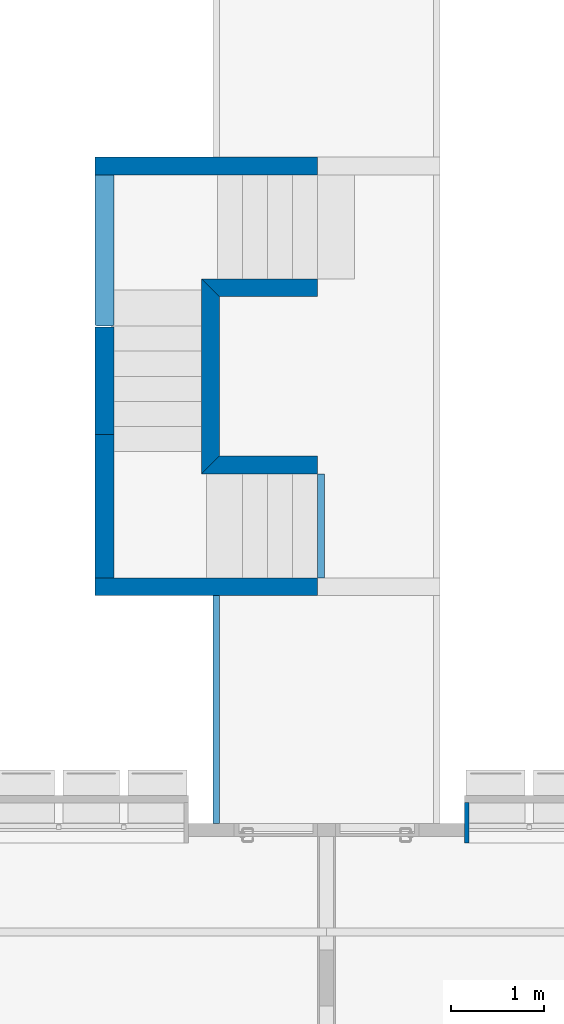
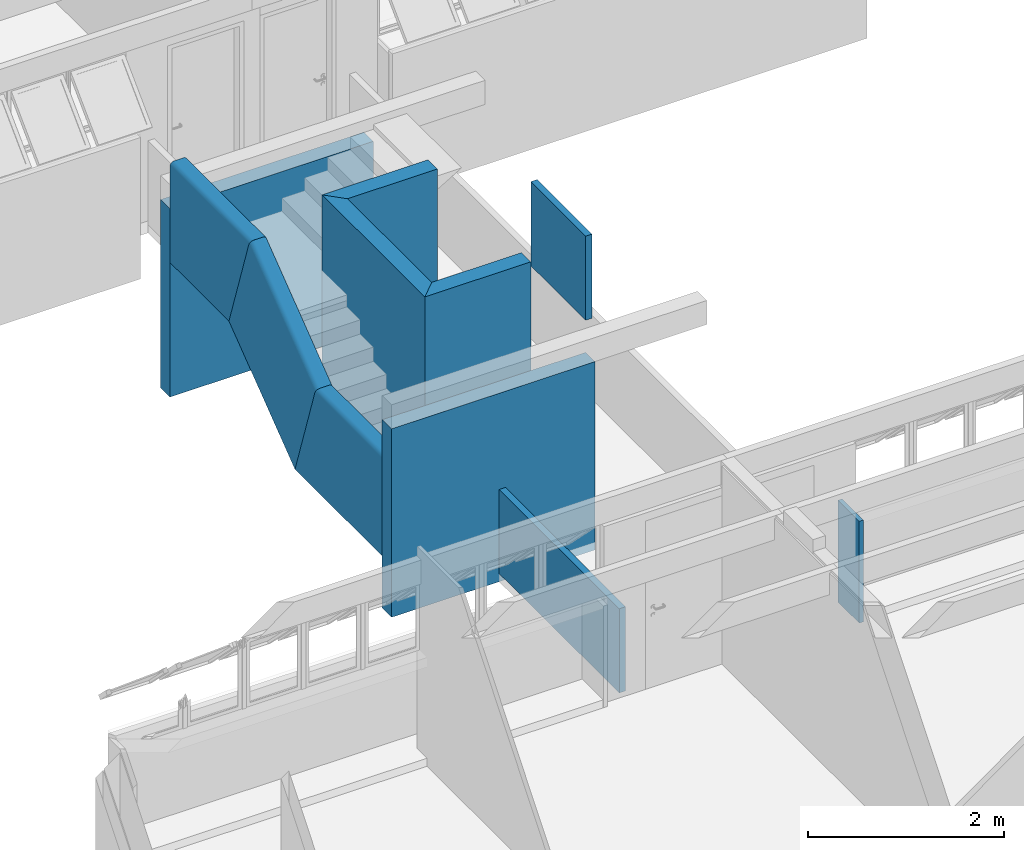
# One storey, part 28 of 41: 11 walls, 1 element without a shape of its own.
"""IFC4 building model written with IfcOpenShell, lengths in millimetres."""

from ifc_helpers import new_model, entity, si_unit, converted_unit, derived_unit, direction, frame, origin_with_axes, place, context, subcontext, project, spatial, line, indexed_curve, outline, extrude, polygons, source, transform, mapped, material, layer, layer_set, layer_usage, type_object, element, aggregate, save


model = new_model("IFC4")

# Units and contexts
model_context = context("Model", 3, precision=0.01, world=origin_with_axes(), true_north=direction((0.0, 1.0)))
body_context = subcontext(model_context, "Body", "Model", "MODEL_VIEW")
ifc_project = project(units=[si_unit("LENGTHUNIT", "METRE", prefix="MILLI"), si_unit("AREAUNIT", "SQUARE_METRE"), si_unit("VOLUMEUNIT", "CUBIC_METRE"), converted_unit("PLANEANGLEUNIT", "DEGREE", entity("IfcPlaneAngleMeasure", 0.0174532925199), si_unit("PLANEANGLEUNIT", "RADIAN"), dimensions=[0, 0, 0, 0, 0, 0, 0]), converted_unit("TIMEUNIT", "Year", entity("IfcTimeMeasure", 31556926.0), si_unit("TIMEUNIT", "SECOND"), dimensions=[0, 0, 1, 0, 0, 0, 0]), si_unit("MASSUNIT", "GRAM", prefix="KILO"), si_unit("THERMODYNAMICTEMPERATUREUNIT", "DEGREE_CELSIUS"), si_unit("LUMINOUSINTENSITYUNIT", "LUMEN"), si_unit("ENERGYUNIT", "JOULE", prefix="MEGA"), derived_unit("THERMALCONDUCTANCEUNIT", [(si_unit("POWERUNIT", "WATT"), 1), (si_unit("LENGTHUNIT", "METRE"), -1), (si_unit("THERMODYNAMICTEMPERATUREUNIT", "KELVIN"), -1)]), derived_unit("SPECIFICHEATCAPACITYUNIT", [(si_unit("ENERGYUNIT", "JOULE"), 1), (si_unit("MASSUNIT", "GRAM", prefix="KILO"), -1), (si_unit("THERMODYNAMICTEMPERATUREUNIT", "KELVIN"), -1)]), derived_unit("MASSDENSITYUNIT", [(si_unit("MASSUNIT", "GRAM", prefix="KILO"), 1), (si_unit("VOLUMEUNIT", "CUBIC_METRE"), -1)])], contexts=[model_context])

# Site, building, storey
site_placement = place(None, origin_with_axes())
site = spatial("IfcSite", under=ifc_project, at=site_placement, Name="Local", CompositionType="ELEMENT")
building_placement = place(site_placement, origin_with_axes())
building = spatial("IfcBuilding", under=site, at=building_placement, Name="Construção", CompositionType="ELEMENT")
storey_placement = place(building_placement, frame((0.0, 0.0, 2650.0), z_axis=(0.0, 0.0, 1.0), x_axis=(1.0, 0.0, 0.0)))
storey = spatial("IfcBuildingStorey", under=building, at=storey_placement, Name="Segundo Pavimento", CompositionType="ELEMENT", Elevation=2650.0)

# Walls
ifc_material_1 = material(Name="GENÉRICO - VEDAÇÃO EXTERNA")
ifc_layer_1 = layer(ifc_material_1, 190.0, ventilated="UNKNOWN", Name="GENÉRICO - VEDAÇÃO EXTERNA")
ifc_layer_set_1 = layer_set([ifc_layer_1], Name="GENÉRICO - VEDAÇÃO EXTERNA 190")
ifc_layer_usage_1 = layer_usage(ifc_layer_set_1, "AXIS2", "NEGATIVE", 0.0)
wall_type_1 = type_object("IfcWallType", Name="GENÉRICO - VEDAÇÃO EXTERNA 190", PredefinedType="NOTDEFINED")
wall_1_placement = place(storey_placement, frame((4890.0, 15440.0, -150.0), z_axis=(0.0, 0.0, 1.0), x_axis=(1.0, 0.0, 0.0)))
element("IfcWall", 1, at=wall_1_placement, inside=storey, type_object=wall_type_1, material=ifc_layer_usage_1, Name="CIRC2-PAREDE-020", PredefinedType="NOTDEFINED", context=body_context, shape_type="SweptSolid", body=[
    extrude(outline(indexed_curve([(0.0, -190.0), (2400.0, -190.0), (2400.0, 0.0), (0.0, 0.0)], segments=[line(1, 2, 3, 4, 1)])), origin_with_axes(), (0.0, 0.0, 1.0), 2350.0),
])
ifc_layer_usage_2 = layer_usage(ifc_layer_set_1, "AXIS2", "NEGATIVE", 0.0)
wall_2_placement = place(storey_placement, frame((4890.0, 10910.0, -150.0), z_axis=(0.0, 0.0, 1.0), x_axis=(1.0, 0.0, 0.0)))
element("IfcWall", 2, at=wall_2_placement, inside=storey, type_object=wall_type_1, material=ifc_layer_usage_2, Name="CIRC2-PAREDE-021", PredefinedType="NOTDEFINED", context=body_context, shape_type="SweptSolid", body=[
    extrude(outline(indexed_curve([(0.0, -190.0), (2400.0, -190.0), (2400.0, 0.0), (0.0, 0.0)], segments=[line(1, 2, 3, 4, 1)])), origin_with_axes(), (0.0, 0.0, 1.0), 2350.0),
])
ifc_material_2 = material(Name="Concreto Armado Moldado in Loco - Estrutural")
ifc_layer_2 = layer(ifc_material_2, 190.0, ventilated="UNKNOWN", Name="Concreto Armado Moldado in Loco - Estrutural")
ifc_layer_set_2 = layer_set([ifc_layer_2], Name="Concreto Armado Moldado in Loco - Estrutural 190")
ifc_layer_usage_3 = layer_usage(ifc_layer_set_2, "AXIS2", "NEGATIVE", 0.0)
wall_type_2 = type_object("IfcWallType", Name="Concreto Armado Moldado in Loco - Estrutural 190", PredefinedType="NOTDEFINED")
wall_3_placement = place(storey_placement, frame((6230.0, 13940.0, -50.0), z_axis=(0.0, 0.0, 1.0), x_axis=(0.0, -1.0, 0.0)))
element("IfcWall", 3, at=wall_3_placement, inside=storey, type_object=wall_type_2, material=ifc_layer_usage_3, Name="CIRC2-PAREDE-022", PredefinedType="NOTDEFINED", context=body_context, shape_type="SweptSolid", body=[
    extrude(outline(indexed_curve([(-190.0, -190.0), (1910.0, -190.0), (1720.0, 0.0), (0.0, 0.0)], segments=[line(1, 2, 3, 4, 1)])), origin_with_axes(), (0.0, 0.0, 1.0), 2700.0),
])
ifc_layer_usage_4 = layer_usage(ifc_layer_set_2, "AXIS2", "NEGATIVE", 0.0)
wall_4_placement = place(storey_placement, frame((6230.0, 12220.0, -50.0), z_axis=(0.0, 0.0, 1.0), x_axis=(1.0, 0.0, 0.0)))
element("IfcWall", 4, at=wall_4_placement, inside=storey, type_object=wall_type_2, material=ifc_layer_usage_4, Name="CIRC2-PAREDE-023", PredefinedType="NOTDEFINED", context=body_context, shape_type="SweptSolid", body=[
    extrude(outline(indexed_curve([(-190.0, -190.0), (1060.0, -190.0), (1060.0, 0.0), (0.0, 0.0)], segments=[line(1, 2, 3, 4, 1)])), origin_with_axes(), (0.0, 0.0, 1.0), 2700.0),
])
ifc_layer_usage_5 = layer_usage(ifc_layer_set_2, "AXIS2", "NEGATIVE", 0.0)
wall_5_placement = place(storey_placement, frame((7290.0, 13940.0, -50.0), z_axis=(0.0, 0.0, 1.0), x_axis=(-1.0, 0.0, 0.0)))
element("IfcWall", 5, at=wall_5_placement, inside=storey, type_object=wall_type_2, material=ifc_layer_usage_5, Name="CIRC2-PAREDE-024", PredefinedType="NOTDEFINED", context=body_context, shape_type="SweptSolid", body=[
    extrude(outline(indexed_curve([(0.0, -190.0), (1250.0, -190.0), (1060.0, 0.0), (0.0, 0.0)], segments=[line(1, 2, 3, 4, 1)])), origin_with_axes(), (0.0, 0.0, 1.0), 2700.0),
])

# Railing, walls
railing_type = type_object("IfcRailingType", Name="Tipo de Guarda-Corpo", PredefinedType="NOTDEFINED")
railing_placement = place(storey_placement, frame((4890.0, 10910.0, 500.0), z_axis=(0.0, 0.0, 1.0), x_axis=(1.0, 0.0, 0.0)))
railing = element("IfcRailing", 6, at=railing_placement, inside=storey, type_object=railing_type, Name="CIRC2-GC-002", PredefinedType="NOTDEFINED")
ifc_material_3 = material(Name="Concreto")
wall_type_3 = type_object("IfcWallType", Name="IfcWall", PredefinedType="NOTDEFINED")
shared_shape_1 = source(origin_with_axes(), body_context, "Body", "Tessellation", [
    polygons([(102.555801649, 0.0, 1250.0), (155.222345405, 0.0, 1250.0), (155.222345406, 1360.0, 1250.0), (102.555801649, 1360.0, 1250.0), (102.555801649, 0.0, 0.0), (205.111603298, 0.0, 0.0), (205.111603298, 0.0, 1203.32595053), (203.863102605, 0.0, 1211.57915105), (201.259002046, 0.0, 1219.50964493), (197.371876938, 0.0, 1226.89641224), (192.310060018, 0.0, 1233.53358652), (186.214622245, 0.0, 1239.23619217), (179.255441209, 0.0, 1243.8452997), (171.626466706, 0.0, 1247.23245499), (163.540315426, 0.0, 1249.30325927), (163.540315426, 1360.23554641, 1249.30325927), (171.626466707, 1360.93562106, 1247.23245499), (179.25544121, 1362.08071312, 1243.8452997), (186.214622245, 1363.6389093, 1239.23619217), (192.310060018, 1365.56678325, 1233.53358652), (197.371876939, 1367.81060584, 1226.89641224), (201.259002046, 1370.30784257, 1219.50964493), (203.863102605, 1372.98889638, 1211.57915105), (205.111603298, 1375.77904728, 1203.32595053), (205.111603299, 1782.58619778, 0.0), (102.555801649, 1782.58619778, 0.0)], [[[1, 2, 3, 4]], [[1, 5, 6, 7, 8, 9, 10, 11, 12, 13, 14, 15, 2]], [[2, 15, 16, 3]], [[4, 3, 16, 17, 18, 19, 20, 21, 22, 23, 24, 25, 26]], [[5, 1, 4, 26]], [[6, 5, 26, 25]], [[7, 6, 25, 24]], [[8, 7, 24, 23]], [[9, 8, 23, 22]], [[10, 9, 22, 21]], [[11, 10, 21, 20]], [[12, 11, 20, 19]], [[13, 12, 19, 18]], [[14, 13, 18, 17]], [[15, 14, 17, 16]]], closed=True),
    polygons([(102.555801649, 0.0, 0.0), (0.0, 0.0, 0.0), (2.67611799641e-10, 1782.58619778, 0.0), (102.555801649, 1782.58619778, 0.0), (102.555801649, 0.0, 1250.0), (49.8892578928, 0.0, 1250.0), (41.5712878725, 0.0, 1249.30325927), (33.485136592, 0.0, 1247.23245499), (25.8561620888, 0.0, 1243.8452997), (18.8969810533, 0.0, 1239.23619217), (12.8015432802, 0.0, 1233.53358652), (7.73972635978, 0.0, 1226.89641224), (3.85260125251, 0.0, 1219.50964493), (1.24850069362, 0.0, 1211.57915105), (0.0, 0.0, 1203.32595053), (2.06578442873e-10, 1375.77904728, 1203.32595053), (1.24850069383, 1372.98889638, 1211.57915105), (3.85260125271, 1370.30784257, 1219.50964493), (7.73972635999, 1367.81060584, 1226.89641224), (12.8015432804, 1365.56678325, 1233.53358652), (18.8969810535, 1363.6389093, 1239.23619217), (25.856162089, 1362.08071312, 1243.8452997), (33.4851365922, 1360.93562106, 1247.23245499), (41.5712878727, 1360.23554641, 1249.30325927), (49.889257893, 1360.0, 1250.0), (102.555801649, 1360.0, 1250.0)], [[[1, 2, 3, 4]], [[1, 5, 6, 7, 8, 9, 10, 11, 12, 13, 14, 15, 2]], [[2, 15, 16, 3]], [[4, 3, 16, 17, 18, 19, 20, 21, 22, 23, 24, 25, 26]], [[5, 1, 4, 26]], [[6, 5, 26, 25]], [[7, 6, 25, 24]], [[8, 7, 24, 23]], [[9, 8, 23, 22]], [[10, 9, 22, 21]], [[11, 10, 21, 20]], [[12, 11, 20, 19]], [[13, 12, 19, 18]], [[14, 13, 18, 17]], [[15, 14, 17, 16]]], closed=True),
])
wall_6_placement = place(railing_placement, frame((1.02140518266e-10, 680.0, -16.7165309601), z_axis=(0.0, 0.0, 1.0), x_axis=(1.0, 0.0, 0.0)))
wall_6 = element("IfcWall", 7, at=wall_6_placement, type_object=wall_type_3, material=ifc_material_3, Name="CIRC2-GC - Barra Superior - 001", PredefinedType="NOTDEFINED", context=body_context, shape_type="MappedRepresentation", body=[
    mapped(shared_shape_1, transform((-1.02140518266e-10, -680.0, 16.7165309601))),
])
shared_shape_2 = source(origin_with_axes(), body_context, "Body", "Tessellation", [
    polygons([(102.555801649, 0.0, 1250.0), (155.222345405, 0.0, 1250.0), (155.222345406, 1350.0, 2280.57075871), (102.555801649, 1350.0, 2280.57075871), (102.555801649, 422.586197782, 0.0), (205.111603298, 422.586197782, 0.0), (205.111603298, 15.7790472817, 1203.32595053), (203.863102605, 12.9888963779, 1211.57915105), (201.259002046, 10.3078425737, 1219.50964493), (197.371876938, 7.81060584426, 1226.89641224), (192.310060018, 5.56678325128, 1233.53358652), (186.214622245, 3.6389092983, 1239.23619217), (179.255441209, 2.08071311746, 1243.8452997), (171.626466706, 0.935621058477, 1247.23245499), (163.540315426, 0.235546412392, 1249.30325927), (163.540315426, 1350.23554641, 2279.87401798), (171.626466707, 1350.93562106, 2277.8032137), (179.25544121, 1352.08071312, 2274.41605841), (186.214622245, 1353.6389093, 2269.80695088), (192.310060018, 1355.56678325, 2264.10434523), (197.371876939, 1357.81060584, 2257.46717095), (201.259002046, 1360.30784257, 2250.08040364), (203.863102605, 1362.98889638, 2242.14990976), (205.111603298, 1365.77904728, 2233.89670923), (205.111603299, 1772.58619778, 1030.57075871), (102.555801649, 1772.58619778, 1030.57075871)], [[[1, 2, 3, 4]], [[1, 5, 6, 7, 8, 9, 10, 11, 12, 13, 14, 15, 2]], [[2, 15, 16, 3]], [[4, 3, 16, 17, 18, 19, 20, 21, 22, 23, 24, 25, 26]], [[5, 1, 4, 26]], [[6, 5, 26, 25]], [[7, 6, 25, 24]], [[8, 7, 24, 23]], [[9, 8, 23, 22]], [[10, 9, 22, 21]], [[11, 10, 21, 20]], [[12, 11, 20, 19]], [[13, 12, 19, 18]], [[14, 13, 18, 17]], [[15, 14, 17, 16]]], closed=True),
    polygons([(102.555801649, 422.586197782, 0.0), (0.0, 422.586197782, 0.0), (2.65861798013e-10, 1772.58619778, 1030.57075871), (102.555801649, 1772.58619778, 1030.57075871), (102.555801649, 0.0, 1250.0), (49.8892578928, 0.0, 1250.0), (41.5712878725, 0.23554641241, 1249.30325927), (33.485136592, 0.935621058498, 1247.23245499), (25.8561620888, 2.08071311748, 1243.8452997), (18.8969810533, 3.63890929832, 1239.23619217), (12.8015432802, 5.5667832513, 1233.53358652), (7.73972635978, 7.81060584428, 1226.89641224), (3.85260125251, 10.3078425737, 1219.50964493), (1.24850069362, 12.9888963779, 1211.57915105), (0.0, 15.7790472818, 1203.32595053), (2.04803070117e-10, 1365.77904728, 2233.89670923), (1.24850069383, 1362.98889638, 2242.14990976), (3.85260125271, 1360.30784257, 2250.08040364), (7.73972635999, 1357.81060584, 2257.46717095), (12.8015432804, 1355.56678325, 2264.10434523), (18.8969810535, 1353.6389093, 2269.80695088), (25.856162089, 1352.08071312, 2274.41605841), (33.4851365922, 1350.93562106, 2277.8032137), (41.5712878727, 1350.23554641, 2279.87401798), (49.889257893, 1350.0, 2280.57075871), (102.555801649, 1350.0, 2280.57075871)], [[[1, 2, 3, 4]], [[1, 5, 6, 7, 8, 9, 10, 11, 12, 13, 14, 15, 2]], [[2, 15, 16, 3]], [[4, 3, 16, 17, 18, 19, 20, 21, 22, 23, 24, 25, 26]], [[5, 1, 4, 26]], [[6, 5, 26, 25]], [[7, 6, 25, 24]], [[8, 7, 24, 23]], [[9, 8, 23, 22]], [[10, 9, 22, 21]], [[11, 10, 21, 20]], [[12, 11, 20, 19]], [[13, 12, 19, 18]], [[14, 13, 18, 17]], [[15, 14, 17, 16]]], closed=True),
])
wall_7_placement = place(railing_placement, frame((3.05533376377e-10, 2035.0, -16.7165309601), z_axis=(0.0, 0.0, 1.0), x_axis=(1.0, 0.0, 0.0)))
wall_7 = element("IfcWall", 8, at=wall_7_placement, type_object=wall_type_3, material=ifc_material_3, Name="CIRC2-GC - Barra Superior - 001", PredefinedType="NOTDEFINED", context=body_context, shape_type="MappedRepresentation", body=[
    mapped(shared_shape_2, transform((-1.01252339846e-10, -675.0, 16.7165309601))),
])
shared_shape_3 = source(origin_with_axes(), body_context, "Body", "Tessellation", [
    polygons([(102.555801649, 0.0, 1250.0), (155.222345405, 0.0, 1250.0), (155.222345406, 1630.0, 1250.0), (102.555801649, 1630.0, 1250.0), (102.555801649, 422.586197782, 0.0), (205.111603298, 422.586197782, 0.0), (205.111603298, 15.7790472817, 1203.32595053), (203.863102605, 12.9888963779, 1211.57915105), (201.259002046, 10.3078425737, 1219.50964493), (197.371876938, 7.81060584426, 1226.89641224), (192.310060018, 5.56678325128, 1233.53358652), (186.214622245, 3.6389092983, 1239.23619217), (179.255441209, 2.08071311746, 1243.8452997), (171.626466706, 0.935621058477, 1247.23245499), (163.540315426, 0.235546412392, 1249.30325927), (163.540315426, 1630.0, 1249.30325927), (171.626466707, 1630.0, 1247.23245499), (179.25544121, 1630.0, 1243.8452997), (186.214622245, 1630.0, 1239.23619217), (192.310060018, 1630.0, 1233.53358652), (197.371876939, 1630.0, 1226.89641224), (201.259002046, 1630.0, 1219.50964493), (203.863102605, 1630.0, 1211.57915105), (205.111603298, 1630.0, 1203.32595053), (205.111603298, 1630.0, 0.0), (102.555801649, 1630.0, 0.0)], [[[1, 2, 3, 4]], [[1, 5, 6, 7, 8, 9, 10, 11, 12, 13, 14, 15, 2]], [[2, 15, 16, 3]], [[4, 3, 16, 17, 18, 19, 20, 21, 22, 23, 24, 25, 26]], [[5, 1, 4, 26]], [[6, 5, 26, 25]], [[7, 6, 25, 24]], [[8, 7, 24, 23]], [[9, 8, 23, 22]], [[10, 9, 22, 21]], [[11, 10, 21, 20]], [[12, 11, 20, 19]], [[13, 12, 19, 18]], [[14, 13, 18, 17]], [[15, 14, 17, 16]]], closed=True),
    polygons([(102.555801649, 422.586197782, 0.0), (0.0, 422.586197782, 0.0), (2.45081732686e-10, 1630.0, 0.0), (102.555801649, 1630.0, 0.0), (102.555801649, 0.0, 1250.0), (49.8892578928, 0.0, 1250.0), (41.5712878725, 0.23554641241, 1249.30325927), (33.485136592, 0.935621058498, 1247.23245499), (25.8561620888, 2.08071311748, 1243.8452997), (18.8969810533, 3.63890929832, 1239.23619217), (12.8015432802, 5.5667832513, 1233.53358652), (7.73972635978, 7.81060584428, 1226.89641224), (3.85260125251, 10.3078425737, 1219.50964493), (1.24850069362, 12.9888963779, 1211.57915105), (0.0, 15.7790472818, 1203.32595053), (2.45067854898e-10, 1630.0, 1203.32595053), (1.24850069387, 1630.0, 1211.57915105), (3.85260125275, 1630.0, 1219.50964493), (7.73972636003, 1630.0, 1226.89641224), (12.8015432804, 1630.0, 1233.53358652), (18.8969810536, 1630.0, 1239.23619217), (25.8561620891, 1630.0, 1243.8452997), (33.4851365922, 1630.0, 1247.23245499), (41.5712878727, 1630.0, 1249.30325927), (49.8892578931, 1630.0, 1250.0), (102.555801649, 1630.0, 1250.0)], [[[1, 2, 3, 4]], [[1, 5, 6, 7, 8, 9, 10, 11, 12, 13, 14, 15, 2]], [[2, 15, 16, 3]], [[4, 3, 16, 17, 18, 19, 20, 21, 22, 23, 24, 25, 26]], [[5, 1, 4, 26]], [[6, 5, 26, 25]], [[7, 6, 25, 24]], [[8, 7, 24, 23]], [[9, 8, 23, 22]], [[10, 9, 22, 21]], [[11, 10, 21, 20]], [[12, 11, 20, 19]], [[13, 12, 19, 18]], [[14, 13, 18, 17]], [[15, 14, 17, 16]]], closed=True),
])
wall_8_placement = place(railing_placement, frame((5.29354338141e-10, 3525.0, 1013.85422775), z_axis=(0.0, 0.0, 1.0), x_axis=(1.0, 0.0, 0.0)))
wall_8 = element("IfcWall", 9, at=wall_8_placement, type_object=wall_type_3, material=ifc_material_3, Name="CIRC2-GC - Barra Superior - 001", PredefinedType="NOTDEFINED", context=body_context, shape_type="MappedRepresentation", body=[
    mapped(shared_shape_3, transform((-1.22568621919e-10, -815.0, 16.7165309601))),
])
aggregate(railing, [wall_6, wall_7, wall_8])

# Walls
ifc_layer_3 = layer(ifc_material_2, 50.0, ventilated="UNKNOWN", Name="Concreto Armado Moldado in Loco - Estrutural")
ifc_layer_set_3 = layer_set([ifc_layer_3], Name="Concreto Armado Moldado in Loco - Estrutural 50")
ifc_layer_usage_6 = layer_usage(ifc_layer_set_3, "AXIS2", "NEGATIVE", 50.0)
wall_type_4 = type_object("IfcWallType", Name="Concreto Armado Moldado in Loco - Estrutural 50", PredefinedType="NOTDEFINED")
wall_9_placement = place(storey_placement, frame((8920.0, 8054.99999866, 0.0), z_axis=(0.0, 0.0, 1.0), x_axis=(0.0, 1.0, 0.0)))
element("IfcWall", 10, at=wall_9_placement, inside=storey, type_object=wall_type_4, material=ifc_layer_usage_6, Name="APTO6-PAREDE-016", PredefinedType="NOTDEFINED", context=body_context, shape_type="SweptSolid", body=[
    extrude(outline(indexed_curve([(0.0, 0.0), (435.0, 0.0), (435.0, 50.0), (0.0, 50.0)], segments=[line(1, 2, 3, 4, 1)])), origin_with_axes(), (0.0, 0.0, 1.0), 1270.0),
])
ifc_layer_4 = layer(ifc_material_1, 75.0, ventilated="UNKNOWN", Name="GENÉRICO - VEDAÇÃO EXTERNA")
ifc_layer_set_4 = layer_set([ifc_layer_4], Name="GENÉRICO - VEDAÇÃO EXTERNA 75")
ifc_layer_usage_7 = layer_usage(ifc_layer_set_4, "AXIS2", "NEGATIVE", 0.0)
wall_type_5 = type_object("IfcWallType", Name="GENÉRICO - VEDAÇÃO EXTERNA 75", PredefinedType="NOTDEFINED")
wall_10_placement = place(storey_placement, frame((7290.00006035, 10910.0, 2600.0), z_axis=(0.0, 0.0, 1.0), x_axis=(-5.38837173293e-08, 1.0, 0.0)))
element("IfcWall", 11, at=wall_10_placement, inside=storey, type_object=wall_type_5, material=ifc_layer_usage_7, Name="PAREDE-040", PredefinedType="NOTDEFINED", context=body_context, shape_type="SweptSolid", body=[
    extrude(outline(indexed_curve([(0.0, -75.0), (1120.0, -75.0), (1120.0, 0.0), (0.0, 0.0)], segments=[line(1, 2, 3, 4, 1)])), origin_with_axes(), (0.0, 0.0, 1.0), 1050.0),
])
ifc_layer_usage_8 = layer_usage(ifc_layer_set_4, "AXIS2", "NEGATIVE", 0.0)
wall_11_placement = place(storey_placement, frame((6160.0, 8265.0, -50.0), z_axis=(0.0, 0.0, 1.0), x_axis=(0.0, 1.0, 0.0)))
element("IfcWall", 12, at=wall_11_placement, inside=storey, type_object=wall_type_5, material=ifc_layer_usage_8, Name="CIRC2-PAREDE-025", PredefinedType="NOTDEFINED", context=body_context, shape_type="SweptSolid", body=[
    extrude(outline(indexed_curve([(0.0, -75.0), (2455.0, -75.0), (2455.0, 0.0), (0.0, 0.0)], segments=[line(1, 2, 3, 4, 1)])), origin_with_axes(), (0.0, 0.0, 1.0), 1050.0),
])

save(model, "model.ifc")
